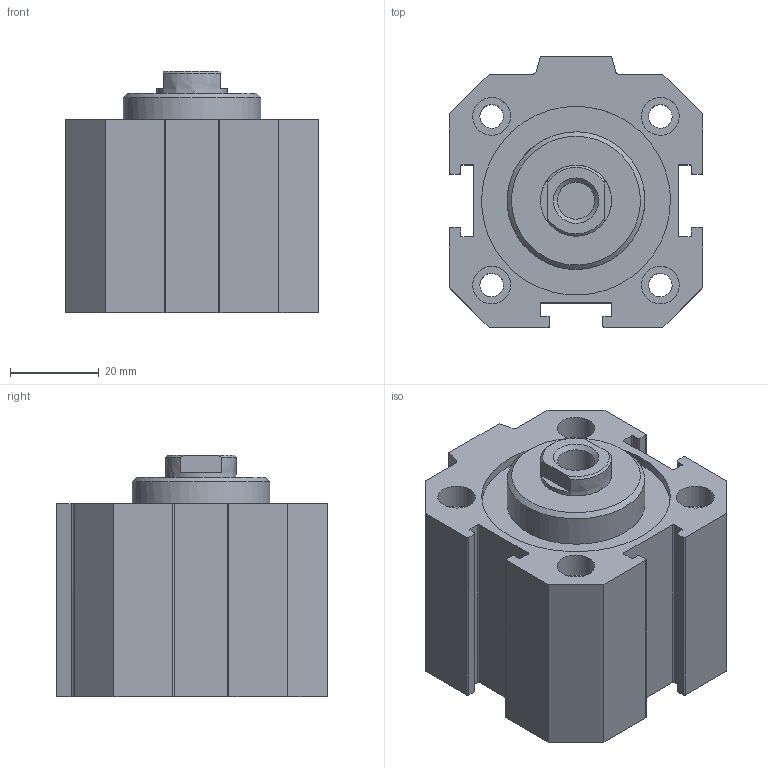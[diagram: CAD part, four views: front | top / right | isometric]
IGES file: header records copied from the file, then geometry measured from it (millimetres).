
Global section: file name: 1511_40_0005; native system: Autodesk Inventor 2014; preprocessor: unknown; author: A. Manieri; date: 20160824.120015; units: millimetre
Bounding box: 57 x 61 x 54.5 mm (x, y, z)
Volume: 117319.3 mm3; surface area: 34037.8 mm2
Topology: 2 solids, 2 shells, 117 faces, 300 edges, 205 vertices
Faces by surface type: bspline 117
